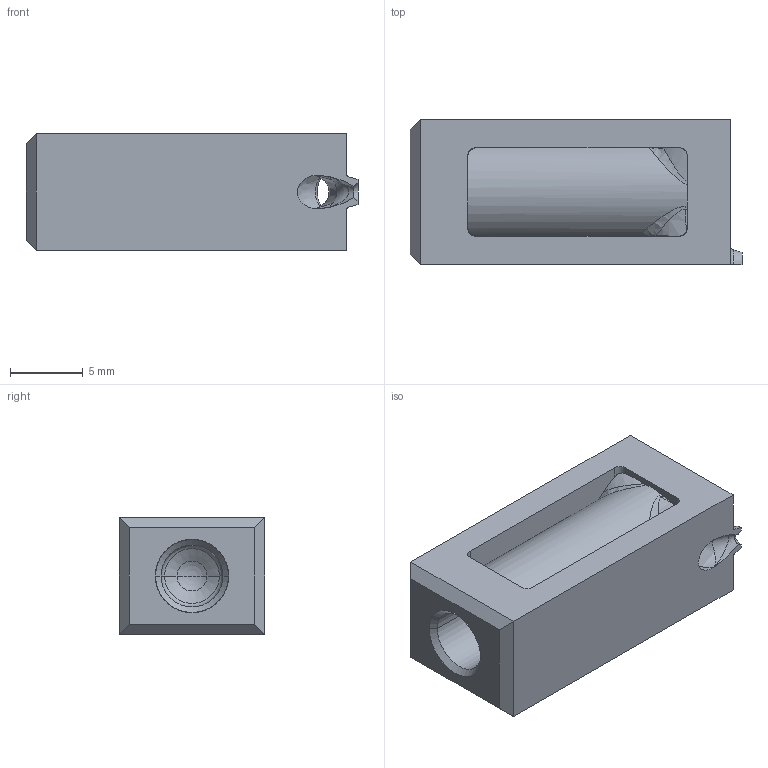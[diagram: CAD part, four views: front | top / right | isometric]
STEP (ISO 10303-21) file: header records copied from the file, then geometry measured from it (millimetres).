
FILE_DESCRIPTION((''),'2;1');
FILE_NAME('TGS10-08-S2','2004-03-24T',('tmeister'),(''),'PRO/ENGINEER BY PARAMETRIC TECHNOLOGY CORPORATION, 2002270','PRO/ENGINEER BY PARAMETRIC TECHNOLOGY CORPORATION, 2002270','');
FILE_SCHEMA(('CONFIG_CONTROL_DESIGN'));
Length unit declared in the file: millimetre
Products named in the file (1): TGS10-08-S2
Bounding box: 22.8 x 10 x 8 mm (x, y, z)
Volume: 1315.5 mm3; surface area: 1564.4 mm2
Topology: 1 solids, 2 shells, 70 faces, 250 edges, 181 vertices
Faces by surface type: plane 21, bspline 20, cone 14, cylinder 9, sphere 3, torus 3
Entity records: 4962 total; most frequent: CARTESIAN_POINT 3186, ORIENTED_EDGE 350, DIRECTION 277, EDGE_CURVE 177, B_SPLINE_CURVE_WITH_KNOTS 114, VERTEX_POINT 112, AXIS2_PLACEMENT_3D 95, VECTOR 87
